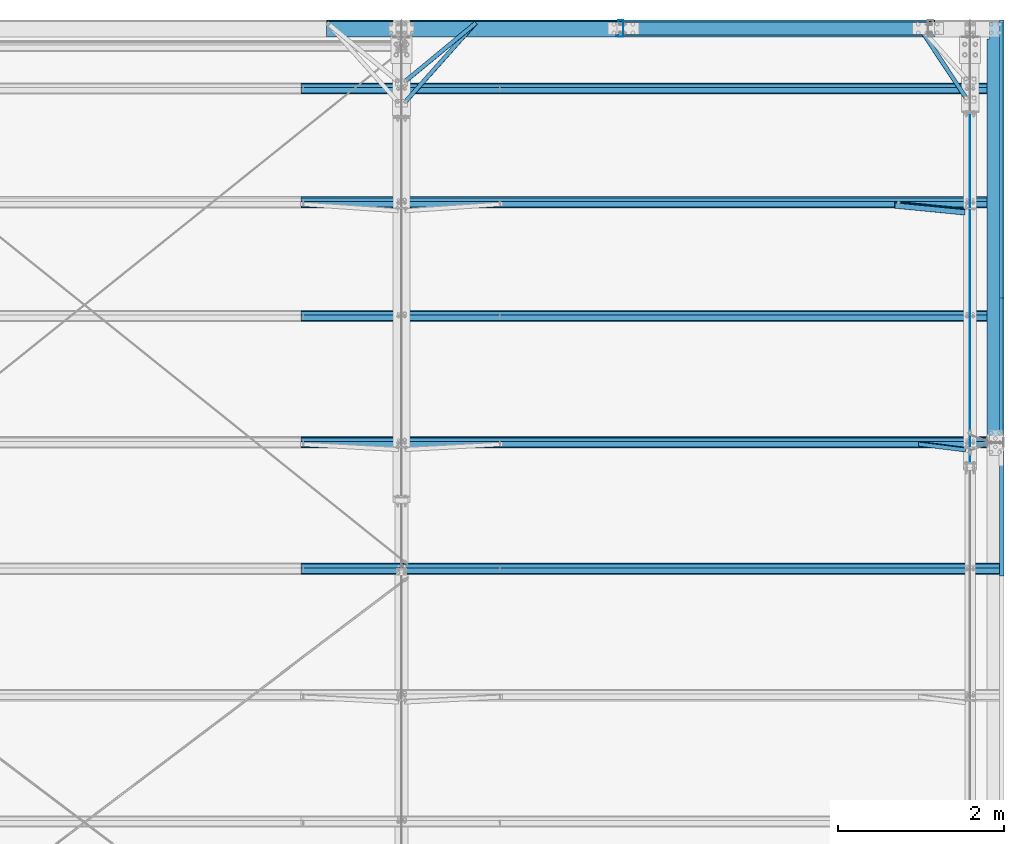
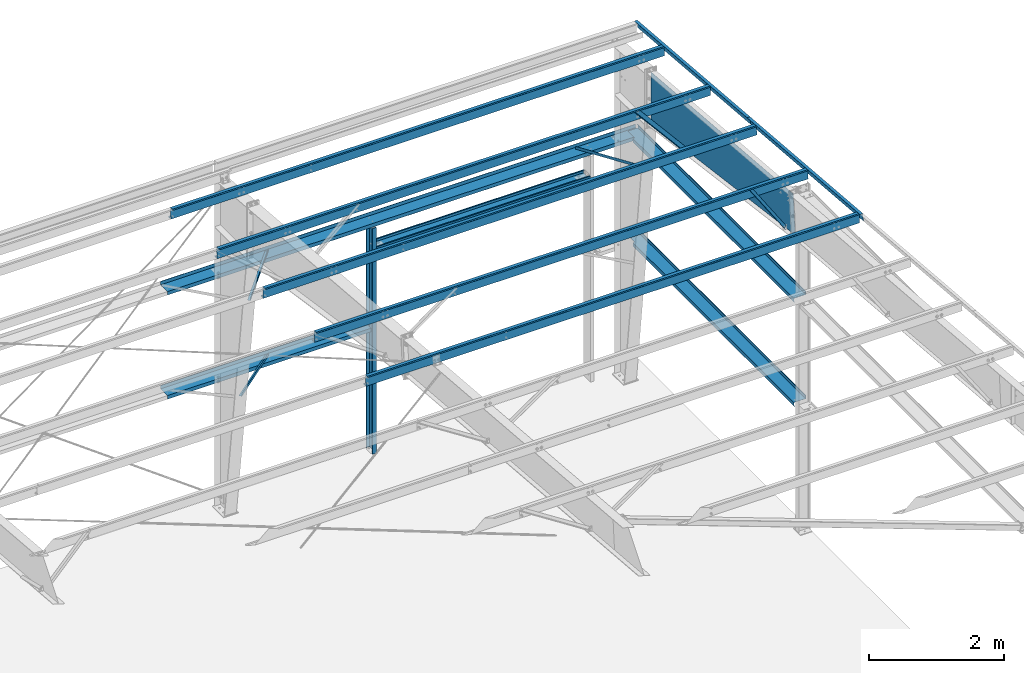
# One storey, part 21 of 185: 17 beams, 2 members, 2 openings, 19 elements without a shape of their own.
"""IFC2X3 building model written with IfcOpenShell, lengths in millimetres."""

from ifc_helpers import new_model, si_unit, frame, origin_with_axes, origin_2d_with_axis, place, context, subcontext, project, spatial, polyline, rectangle, l_section, outline, extrude, clip, halfspace, material, type_object, element, aggregate, save


model = new_model("IFC2X3")

# Units and contexts
model_context = context("Model", 3, precision=1e-05, world=origin_with_axes())
body_context = subcontext(model_context, "Body", "Model", "MODEL_VIEW")
ifc_project = project(units=[si_unit("LENGTHUNIT", "METRE", prefix="MILLI"), si_unit("AREAUNIT", "SQUARE_METRE"), si_unit("VOLUMEUNIT", "CUBIC_METRE"), si_unit("MASSUNIT", "GRAM", prefix="KILO"), si_unit("TIMEUNIT", "SECOND"), si_unit("PLANEANGLEUNIT", "RADIAN"), si_unit("SOLIDANGLEUNIT", "STERADIAN"), si_unit("THERMODYNAMICTEMPERATUREUNIT", "DEGREE_CELSIUS"), si_unit("LUMINOUSINTENSITYUNIT", "LUMEN")], contexts=[model_context])

# Site, building, storey
site_placement = place(None, origin_with_axes())
site = spatial("IfcSite", under=ifc_project, at=site_placement, Name="Undefined", CompositionType="ELEMENT")
building_placement = place(site_placement, origin_with_axes())
building = spatial("IfcBuilding", under=site, at=building_placement, Name="Undefined", CompositionType="ELEMENT")
storey_placement = place(building_placement, origin_with_axes())
storey = spatial("IfcBuildingStorey", under=building, at=storey_placement, Name="Undefined", CompositionType="ELEMENT", Elevation=0.0)

# Assembly, beam, opening
assembly_1_placement = place(storey_placement, origin_with_axes())
assembly_1 = element("IfcElementAssembly", 1, at=assembly_1_placement, inside=storey, Name="Steel Assembly", AssemblyPlace="NOTDEFINED", PredefinedType="RIGID_FRAME")
ifc_material = material(Name="STEEL/55")
beam_type_1 = type_object("IfcBeamType", Name="8Z15", PredefinedType="NOTDEFINED")
beam_1_placement = place(assembly_1_placement, frame((44856.4, 26923.99921875, 2286.0), z_axis=(-1.0, 0.0, 0.0), x_axis=(0.0, 1.0, 0.0)))
beam_1 = element("IfcBeam", 2, at=beam_1_placement, type_object=beam_type_1, material=ifc_material, Name="Girt", ObjectType="8Z15", context=body_context, shape_type="Clipping", body=[
    clip(extrude(outline(polyline([(-75.75, 87.0100021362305), (-63.5, 101.599998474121), (1.5900000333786, 101.599998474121), (1.5900000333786, -98.4199981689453), (62.0200004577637, -98.4199981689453), (73.3099975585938, -84.9700012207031), (75.7399978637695, -87.0100021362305), (63.5, -101.599998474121), (-1.5900000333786, -101.599998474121), (-1.5900000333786, 98.4199981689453), (-62.0200004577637, 98.4199981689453), (-73.3099975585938, 84.9700012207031), (-75.75, 87.0100021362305)])), frame((5054.60078125, 0.0, 0.0), z_axis=(-1.0, 0.0, 0.0), x_axis=(0.0, -1.0, 0.0)), (0.0, 0.0, 1.0), 5054.6), halfspace(frame((88.9007812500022, 74.5286799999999, -101.599999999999), z_axis=(-1.0, 0.0, 0.0), x_axis=(0.0, 0.0, 1.0)), False)),
])
opening_1_placement = place(assembly_1_placement, frame((44856.4, 26923.99921875, 2286.0), z_axis=(-1.0, 0.0, 0.0), x_axis=(0.0, 1.0, 0.0)))
element("IfcOpeningElement", 3, at=opening_1_placement, cuts=beam_1, ObjectType="Recess", context=body_context, shape_type="SweptSolid", body=[
    extrude(outline(polyline([(0.0, 0.0), (203.199996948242, 0.0), (203.199996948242, 254.0), (0.0, 254.0), (0.0, 0.0)])), frame((5105.40078125, 101.6, 149.225), z_axis=(0.0, 0.0, -1.0), x_axis=(0.0, -1.0, 0.0)), (0.0, 0.0, 1.0), 76.2),
])
aggregate(assembly_1, [beam_1])

assembly_2_placement = place(storey_placement, origin_with_axes())
assembly_2 = element("IfcElementAssembly", 4, at=assembly_2_placement, inside=storey, Name="Steel Assembly", AssemblyPlace="NOTDEFINED", PredefinedType="RIGID_FRAME")
beam_2_placement = place(assembly_2_placement, frame((44856.4, 26923.99921875, 4165.6), z_axis=(-1.0, 0.0, 0.0), x_axis=(0.0, 1.0, 0.0)))
beam_2 = element("IfcBeam", 5, at=beam_2_placement, type_object=beam_type_1, material=ifc_material, Name="Girt", ObjectType="8Z15", context=body_context, shape_type="Clipping", body=[
    clip(clip(extrude(outline(polyline([(-75.75, 87.0100021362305), (-63.5, 101.599998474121), (1.5900000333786, 101.599998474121), (1.5900000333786, -98.4199981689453), (62.0200004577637, -98.4199981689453), (73.3099975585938, -84.9700012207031), (75.7399978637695, -87.0100021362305), (63.5, -101.599998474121), (-1.5900000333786, -101.599998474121), (-1.5900000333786, 98.4199981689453), (-62.0200004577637, 98.4199981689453), (-73.3099975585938, 84.9700012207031), (-75.75, 87.0100021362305)])), frame((5054.60078125, 0.0, 0.0), z_axis=(-1.0, 0.0, 0.0), x_axis=(0.0, -1.0, 0.0)), (0.0, 0.0, 1.0), 5054.6), halfspace(frame((88.9007812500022, 74.5286799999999, -101.599999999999), z_axis=(-1.0, 0.0, 0.0), x_axis=(0.0, 0.0, 1.0)), False)), halfspace(frame((5054.60078125, 0.0, -101.599999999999), z_axis=(-1.0, 0.0, 0.0), x_axis=(0.0, -1.0, 0.0)), True)),
])
opening_2_placement = place(assembly_2_placement, frame((44856.4, 26923.99921875, 4165.6), z_axis=(-1.0, 0.0, 0.0), x_axis=(0.0, 1.0, 0.0)))
element("IfcOpeningElement", 6, at=opening_2_placement, cuts=beam_2, ObjectType="Recess", context=body_context, shape_type="SweptSolid", body=[
    extrude(outline(polyline([(0.0, 0.0), (203.199996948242, 0.0), (203.199996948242, 254.0), (0.0, 254.0), (0.0, 0.0)])), frame((5105.40078125, 101.6, 149.225), z_axis=(0.0, 0.0, -1.0), x_axis=(0.0, -1.0, 0.0)), (0.0, 0.0, 1.0), 76.2),
])
aggregate(assembly_2, [beam_2])

# Assembly, beam
assembly_3_placement = place(storey_placement, origin_with_axes())
assembly_3 = element("IfcElementAssembly", 7, at=assembly_3_placement, inside=storey, Name="Steel Assembly", AssemblyPlace="NOTDEFINED", PredefinedType="RIGID_FRAME")
beam_type_2 = type_object("IfcBeamType", Name="FB-", PredefinedType="NOTDEFINED")
beam_3_placement = place(assembly_3_placement, frame((37762.3896161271, 31233.6344970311, 2285.99999999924), z_axis=(-0.636105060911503, 0.77160245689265, 0.0), x_axis=(0.771602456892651, 0.636105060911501, 0.0)))
beam_3 = element("IfcBeam", 8, at=beam_3_placement, type_object=beam_type_2, material=ifc_material, Name="2X2 FLANGE BRACE X 48", ObjectType="FB-", context=body_context, shape_type="SweptSolid", body=[
    extrude(outline(polyline([(1.5900000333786, 1.59000003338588), (50.7999992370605, 1.59000003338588), (50.7999992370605, 7.27595761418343e-12), (0.0, 0.0), (0.0, 50.7999992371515), (1.5900000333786, 50.7999992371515), (1.5900000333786, 1.59000003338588)])), frame((1125.79495665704, 0.0, -1.24988348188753e-13), z_axis=(-1.0, 0.0, 0.0), x_axis=(0.0, -1.0, 0.0)), (0.0, 0.0, 1.0), 1125.8),
])
aggregate(assembly_3, [beam_3])

assembly_4_placement = place(storey_placement, origin_with_axes())
assembly_4 = element("IfcElementAssembly", 9, at=assembly_4_placement, inside=storey, Name="Steel Assembly", AssemblyPlace="NOTDEFINED", PredefinedType="RIGID_FRAME")
beam_4_placement = place(assembly_4_placement, frame((37767.9149298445, 30985.5315740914, 4165.60000000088), z_axis=(-0.746933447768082, 0.664898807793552, 0.0), x_axis=(0.664898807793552, 0.746933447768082, 0.0)))
beam_4 = element("IfcBeam", 10, at=beam_4_placement, type_object=beam_type_2, material=ifc_material, Name="2X2 FLANGE BRACE X 60", ObjectType="FB-", context=body_context, shape_type="SweptSolid", body=[
    extrude(outline(polyline([(1.5900000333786, 1.59000003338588), (50.7999992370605, 1.59000003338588), (50.7999992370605, 7.27595761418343e-12), (0.0, 0.0), (0.0, 50.7999992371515), (1.5900000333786, 50.7999992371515), (1.5900000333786, 1.59000003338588)])), frame((1298.31126038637, 0.0, 0.0), z_axis=(-1.0, 0.0, 0.0), x_axis=(0.0, -1.0, 0.0)), (0.0, 0.0, 1.0), 1298.3),
])
aggregate(assembly_4, [beam_4])

assembly_5_placement = place(storey_placement, origin_with_axes())
assembly_5 = element("IfcElementAssembly", 11, at=assembly_5_placement, inside=storey, Name="Steel Assembly", AssemblyPlace="NOTDEFINED", PredefinedType="RIGID_FRAME")
beam_5_placement = place(assembly_5_placement, frame((44497.6231989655, 31030.2450090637, 4167.18750000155), z_axis=(0.0, 0.0, 1.0), x_axis=(-0.552314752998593, 0.833635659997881, 0.0)))
beam_5 = element("IfcBeam", 12, at=beam_5_placement, type_object=beam_type_2, material=ifc_material, Name="2X2 FLANGE BRACE X 48", ObjectType="FB-", context=body_context, shape_type="SweptSolid", body=[
    extrude(outline(polyline([(1.5900000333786, 1.59000003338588), (50.7999992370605, 1.59000003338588), (50.7999992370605, 7.27595761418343e-12), (0.0, 0.0), (0.0, 50.7999992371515), (1.5900000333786, 50.7999992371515), (1.5900000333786, 1.59000003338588)])), frame((1115.71587763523, 0.0, 0.0), z_axis=(-1.0, 0.0, 0.0), x_axis=(0.0, -1.0, 0.0)), (0.0, 0.0, 1.0), 1115.7),
])
aggregate(assembly_5, [beam_5])

assembly_6_placement = place(storey_placement, origin_with_axes())
assembly_6 = element("IfcElementAssembly", 13, at=assembly_6_placement, inside=storey, Name="Steel Assembly", AssemblyPlace="NOTDEFINED", PredefinedType="RIGID_FRAME")
beam_type_3 = type_object("IfcBeamType", Name="8Z16", PredefinedType="NOTDEFINED")
beam_6_placement = place(assembly_6_placement, frame((40385.9999023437, 31902.4, 2286.0), z_axis=(0.0, -1.0, 0.0), x_axis=(-1.0, 0.0, 0.0)))
beam_6 = element("IfcBeam", 14, at=beam_6_placement, type_object=beam_type_3, material=ifc_material, Name="Girt", ObjectType="8Z16", context=body_context, shape_type="Clipping", body=[
    clip(clip(extrude(outline(polyline([(73.3099975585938, -84.9700012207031), (75.7399978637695, -87.0100021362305), (63.5, -101.599998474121), (-1.5900000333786, -101.599998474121), (-1.5900000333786, 98.4199981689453), (-62.0200004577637, 98.4199981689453), (-73.3099975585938, 84.9700012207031), (-75.75, 87.0100021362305), (-63.5, 101.599998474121), (1.5900000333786, 101.599998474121), (1.5900000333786, -98.4199981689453), (62.0200004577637, -98.4199981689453), (73.3099975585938, -84.9700012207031)])), frame((3568.69990234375, 0.0, 0.0), z_axis=(-1.0, 0.0, 0.0), x_axis=(0.0, -1.0, 0.0)), (0.0, 0.0, 1.0), 3479.8), halfspace(frame((3568.69990234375, 0.0, -101.599999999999), z_axis=(1.0, 0.0, 0.0), x_axis=(0.0, 1.0, 0.0)), False)), halfspace(frame((88.8999023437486, -1.5900000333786, 0.0), z_axis=(1.0, 0.0, 0.0), x_axis=(0.0, -1.0, 0.0)), True)),
])
aggregate(assembly_6, [beam_6])

assembly_7_placement = place(storey_placement, origin_with_axes())
assembly_7 = element("IfcElementAssembly", 15, at=assembly_7_placement, inside=storey, Name="Steel Assembly", AssemblyPlace="NOTDEFINED", PredefinedType="RIGID_FRAME")
beam_type_4 = type_object("IfcBeamType", Name="8C16", PredefinedType="NOTDEFINED")
beam_7_placement = place(assembly_7_placement, frame((40354.25, 31902.4, 4165.6), z_axis=(0.0, 1.0, 0.0), x_axis=(0.0, 0.0, -1.0)))
beam_7 = element("IfcBeam", 16, at=beam_7_placement, type_object=beam_type_4, material=ifc_material, Name="Jamb", ObjectType="8C16", context=body_context, shape_type="Clipping", body=[
    clip(extrude(outline(polyline([(-31.75, 79.370002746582), (-31.75, 101.599998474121), (31.75, 101.599998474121), (31.75, -101.599998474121), (-31.75, -101.599998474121), (-31.75, -79.379997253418), (-28.5699996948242, -79.379997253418), (-28.5699996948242, -98.4300003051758), (28.5699996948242, -98.4300003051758), (28.5699996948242, 98.4199981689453), (-28.5699996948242, 98.4199981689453), (-28.5699996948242, 79.370002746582), (-31.75, 79.370002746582)])), frame((4165.6, 0.0, 0.0), z_axis=(-1.0, 0.0, 0.0), x_axis=(0.0, -1.0, 0.0)), (0.0, 0.0, 1.0), 4076.7), halfspace(frame((88.9000000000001, -28.5699996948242, 0.0), z_axis=(1.0, 0.0, 0.0), x_axis=(0.0, 1.0, 0.0)), True)),
])
aggregate(assembly_7, [beam_7])

assembly_8_placement = place(storey_placement, origin_with_axes())
assembly_8 = element("IfcElementAssembly", 17, at=assembly_8_placement, inside=storey, Name="Steel Assembly", AssemblyPlace="NOTDEFINED", PredefinedType="RIGID_FRAME")
beam_8_placement = place(assembly_8_placement, frame((44043.6, 31902.4, 3689.35), z_axis=(0.0, 1.0, 0.0), x_axis=(-1.0, 0.0, 0.0)))
beam_8 = element("IfcBeam", 18, at=beam_8_placement, type_object=beam_type_4, material=ifc_material, Name="Header", ObjectType="8C16", context=body_context, shape_type="Clipping", body=[
    clip(clip(extrude(outline(polyline([(-31.75, 79.370002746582), (-31.75, 101.599998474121), (31.75, 101.599998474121), (31.75, -101.599998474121), (-31.75, -101.599998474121), (-31.75, -79.379997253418), (-28.5699996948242, -79.379997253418), (-28.5699996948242, -98.4300003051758), (28.5699996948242, -98.4300003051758), (28.5699996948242, 98.4199981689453), (-28.5699996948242, 98.4199981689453), (-28.5699996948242, 79.370002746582), (-31.75, 79.370002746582)])), frame((3657.6, 0.0, 0.0), z_axis=(-1.0, 0.0, 0.0), x_axis=(0.0, -1.0, 0.0)), (0.0, 0.0, 1.0), 3657.6), halfspace(frame((3657.6, -28.5699996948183, 0.0), z_axis=(-1.0, 0.0, 0.0), x_axis=(0.0, 1.0, 0.0)), True)), halfspace(frame((0.0, -28.5699996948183, 0.0), z_axis=(1.0, 0.0, 0.0), x_axis=(0.0, 1.0, 0.0)), True)),
])
aggregate(assembly_8, [beam_8])

# Assembly, member
assembly_9_placement = place(storey_placement, origin_with_axes())
assembly_9 = element("IfcElementAssembly", 19, at=assembly_9_placement, inside=storey, Name="Steel Assembly", AssemblyPlace="NOTDEFINED", PredefinedType="RIGID_FRAME")
member_type_1 = type_object("IfcMemberType", Name="FB-", PredefinedType="NOTDEFINED")
member_1_placement = place(assembly_9_placement, frame((44497.4182976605, 26861.5423714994, 5614.00459454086), z_axis=(0.0, -0.996545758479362, 0.0830454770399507), x_axis=(-0.547450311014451, 0.0694956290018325, 0.833947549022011)))
member_1 = element("IfcMember", 20, at=member_1_placement, type_object=member_type_1, material=ifc_material, Name="2X2 FLANGE BRACE X 48", ObjectType="FB-", context=body_context, shape_type="SweptSolid", body=[
    extrude(outline(polyline([(1.5900000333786, 1.59000003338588), (50.7999992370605, 1.59000003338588), (50.7999992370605, 7.27595761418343e-12), (0.0, 0.0), (0.0, 50.7999992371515), (1.5900000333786, 50.7999992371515), (1.5900000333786, 1.59000003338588)])), frame((1032.38451710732, 0.0, 1.43272132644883e-14), z_axis=(-1.0, 0.0, 0.0), x_axis=(0.0, -1.0, 0.0)), (0.0, 0.0, 1.0), 1032.4),
])
aggregate(assembly_9, [member_1])

# Assembly, beam
assembly_10_placement = place(storey_placement, origin_with_axes())
assembly_10 = element("IfcElementAssembly", 21, at=assembly_10_placement, inside=storey, Name="Steel Assembly", AssemblyPlace="NOTDEFINED", PredefinedType="RIGID_FRAME")
beam_type_5 = type_object("IfcBeamType", Name="RA-1", PredefinedType="NOTDEFINED")
beam_9_placement = place(assembly_10_placement, frame((44958.0, 25321.5435704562, 6652.63942907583), z_axis=(0.0, -0.0830701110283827, -0.996543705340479), x_axis=(0.0, 0.99654370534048, -0.0830701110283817)))
beam_9 = element("IfcBeam", 22, at=beam_9_placement, type_object=beam_type_5, material=ifc_material, Name="STANDARD RAKE ANGLE", ObjectType="RA-1", context=body_context, shape_type="SweptSolid", body=[
    extrude(outline(polyline([(0.0, 0.0), (50.7999992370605, 7.27595761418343e-12), (50.7999992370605, -1.51999998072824), (-1.51999998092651, -1.51999998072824), (-1.51999998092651, 127.000000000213), (0.0, 127.000000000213), (0.0, 0.0)])), frame((3352.80000002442, 0.0, -1.86551885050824e-12), z_axis=(-1.0, 0.0, 0.0), x_axis=(0.0, -1.0, 0.0)), (0.0, 0.0, 1.0), 3352.8),
])
aggregate(assembly_10, [beam_9])

assembly_11_placement = place(storey_placement, origin_with_axes())
assembly_11 = element("IfcElementAssembly", 23, at=assembly_11_placement, inside=storey, Name="Steel Assembly", AssemblyPlace="NOTDEFINED", PredefinedType="RIGID_FRAME")
beam_10_placement = place(assembly_11_placement, frame((44958.0, 28662.7553058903, 6374.12196248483), z_axis=(0.0, -0.0830701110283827, -0.996543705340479), x_axis=(0.0, 0.99654370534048, -0.0830701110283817)))
beam_10 = element("IfcBeam", 24, at=beam_10_placement, type_object=beam_type_5, material=ifc_material, Name="STANDARD RAKE ANGLE", ObjectType="RA-1", context=body_context, shape_type="SweptSolid", body=[
    extrude(outline(polyline([(0.0, 0.0), (50.7999992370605, 7.27595761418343e-12), (50.7999992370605, -1.51999998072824), (-1.51999998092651, -1.51999998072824), (-1.51999998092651, 127.000000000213), (0.0, 127.000000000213), (0.0, 0.0)])), frame((3352.80000002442, 0.0, -1.86551885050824e-12), z_axis=(-1.0, 0.0, 0.0), x_axis=(0.0, -1.0, 0.0)), (0.0, 0.0, 1.0), 3352.8),
])
aggregate(assembly_11, [beam_10])

# Assembly, member
assembly_12_placement = place(storey_placement, origin_with_axes())
assembly_12 = element("IfcElementAssembly", 25, at=assembly_12_placement, inside=storey, Name="Steel Assembly", AssemblyPlace="NOTDEFINED", PredefinedType="RIGID_FRAME")
member_type_2 = type_object("IfcMemberType", Name="L3X3X1/4", PredefinedType="NOTDEFINED")
member_2_placement = place(assembly_12_placement, frame((44516.3602372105, 29698.8098092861, 5252.42447418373), z_axis=(0.000671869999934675, -0.996498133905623, 0.0836123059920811), x_axis=(-0.646152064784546, 0.0633810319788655, 0.760572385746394)))
member_2 = element("IfcMember", 26, at=member_2_placement, type_object=member_type_2, material=ifc_material, Name="MISC STRUCTURAL ANGLE", ObjectType="L3X3X1/4", context=body_context, shape_type="SweptSolid", body=[
    extrude(l_section(Depth=76.2, Width=76.2, Thickness=6.35, FilletRadius=9.525, at=origin_2d_with_axis()), frame((1305.80450091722, 7.27595761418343e-12, -3.61985712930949e-12), z_axis=(-1.0, 0.0, 0.0), x_axis=(0.0, -1.0, 0.0)), (0.0, 0.0, 1.0), 1305.8),
])
aggregate(assembly_12, [member_2])

# Assembly, beam
assembly_13_placement = place(storey_placement, origin_with_axes())
assembly_13 = element("IfcElementAssembly", 27, at=assembly_13_placement, inside=storey, Name="Steel Assembly", AssemblyPlace="NOTDEFINED", PredefinedType="RIGID_FRAME")
beam_type_6 = type_object("IfcBeamType", Name="8Z12", PredefinedType="NOTDEFINED")
beam_11_placement = place(assembly_13_placement, frame((44958.0, 31902.4, 4165.6), z_axis=(0.0, -1.0, 0.0), x_axis=(-1.0, 0.0, 0.0)))
beam_11 = element("IfcBeam", 28, at=beam_11_placement, type_object=beam_type_6, material=ifc_material, Name="Girt", ObjectType="8Z12", context=body_context, shape_type="Clipping", body=[
    clip(clip(extrude(outline(polyline([(-62.0200004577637, 98.4199981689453), (-73.3099975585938, 84.9700012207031), (-75.75, 87.0100021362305), (-63.5, 101.599998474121), (1.5900000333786, 101.599998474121), (1.5900000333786, -98.4199981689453), (62.0200004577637, -98.4199981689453), (73.3099975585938, -84.9700012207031), (75.7399978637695, -87.0100021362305), (63.5, -101.599998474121), (-1.5900000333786, -101.599998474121), (-1.5900000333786, 98.4199981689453), (-62.0200004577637, 98.4199981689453)])), frame((8140.7, 0.0, 0.0), z_axis=(-1.0, 0.0, 0.0), x_axis=(0.0, -1.0, 0.0)), (0.0, 0.0, 1.0), 8115.3), halfspace(frame((8140.7, 0.0, -101.599999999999), z_axis=(1.0, 0.0, 0.0), x_axis=(0.0, 1.0, 0.0)), False)), halfspace(frame((25.4000000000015, 0.0, -101.6), z_axis=(-1.0, 0.0, 0.0), x_axis=(0.0, 0.0, 1.0)), False)),
])
aggregate(assembly_13, [beam_11])

assembly_14_placement = place(storey_placement, origin_with_axes())
assembly_14 = element("IfcElementAssembly", 29, at=assembly_14_placement, inside=storey, Name="Steel Assembly", AssemblyPlace="NOTDEFINED", PredefinedType="RIGID_FRAME")
beam_type_7 = type_object("IfcBeamType", Name="8Z13", PredefinedType="NOTDEFINED")
beam_12_placement = place(assembly_14_placement, frame((44958.0, 31180.9195102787, 6062.63787351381), z_axis=(0.0, -0.0830454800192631, -0.996545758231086), x_axis=(-1.0, 0.0, 0.0)))
beam_12 = element("IfcBeam", 30, at=beam_12_placement, type_object=beam_type_7, material=ifc_material, Name="Purlin", ObjectType="8Z13", context=body_context, shape_type="Clipping", body=[
    clip(clip(extrude(outline(polyline([(-62.0200004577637, 98.4199981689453), (-73.3099975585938, 84.9700012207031), (-75.75, 87.0100021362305), (-63.5, 101.599998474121), (1.5900000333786, 101.599998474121), (1.5900000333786, -98.4199981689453), (62.0200004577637, -98.4199981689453), (73.3099975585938, -84.9700012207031), (75.7399978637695, -87.0100021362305), (63.5, -101.599998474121), (-1.5900000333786, -101.599998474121), (-1.5900000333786, 98.4199981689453), (-62.0200004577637, 98.4199981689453)])), frame((8445.5, 0.0, 0.0), z_axis=(-1.0, 0.0, 0.0), x_axis=(0.0, -1.0, 0.0)), (0.0, 0.0, 1.0), 8432.8), halfspace(frame((8445.5, 2.91402102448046e-09, -101.600000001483), z_axis=(-1.0, 0.0, 0.0), x_axis=(0.0, 0.0, 1.0)), True)), halfspace(frame((12.7000000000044, 2.91402102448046e-09, -101.600000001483), z_axis=(-1.0, 0.0, 0.0), x_axis=(0.0, 0.0, 1.0)), False)),
])
aggregate(assembly_14, [beam_12])

assembly_15_placement = place(storey_placement, origin_with_axes())
assembly_15 = element("IfcElementAssembly", 31, at=assembly_15_placement, inside=storey, Name="Steel Assembly", AssemblyPlace="NOTDEFINED", PredefinedType="RIGID_FRAME")
beam_13_placement = place(assembly_15_placement, frame((44958.0, 29814.0573482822, 6176.54305391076), z_axis=(0.0, -0.0830454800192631, -0.996545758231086), x_axis=(-1.0, 0.0, 0.0)))
beam_13 = element("IfcBeam", 32, at=beam_13_placement, type_object=beam_type_7, material=ifc_material, Name="Purlin", ObjectType="8Z13", context=body_context, shape_type="Clipping", body=[
    clip(clip(extrude(outline(polyline([(-62.0200004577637, 98.4199981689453), (-73.3099975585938, 84.9700012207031), (-75.75, 87.0100021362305), (-63.5, 101.599998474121), (1.5900000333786, 101.599998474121), (1.5900000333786, -98.4199981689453), (62.0200004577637, -98.4199981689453), (73.3099975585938, -84.9700012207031), (75.7399978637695, -87.0100021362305), (63.5, -101.599998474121), (-1.5900000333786, -101.599998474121), (-1.5900000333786, 98.4199981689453), (-62.0200004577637, 98.4199981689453)])), frame((8445.5, 0.0, 0.0), z_axis=(-1.0, 0.0, 0.0), x_axis=(0.0, -1.0, 0.0)), (0.0, 0.0, 1.0), 8432.8), halfspace(frame((8445.5, 2.91402102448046e-09, -101.600000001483), z_axis=(-1.0, 0.0, 0.0), x_axis=(0.0, 0.0, 1.0)), True)), halfspace(frame((12.7000000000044, 2.91402102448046e-09, -101.600000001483), z_axis=(-1.0, 0.0, 0.0), x_axis=(0.0, 0.0, 1.0)), False)),
])
aggregate(assembly_15, [beam_13])

assembly_16_placement = place(storey_placement, origin_with_axes())
assembly_16 = element("IfcElementAssembly", 33, at=assembly_16_placement, inside=storey, Name="Steel Assembly", AssemblyPlace="NOTDEFINED", PredefinedType="RIGID_FRAME")
beam_14_placement = place(assembly_16_placement, frame((44958.0, 28447.1951862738, 6290.4482343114), z_axis=(0.0, -0.0830454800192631, -0.996545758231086), x_axis=(-1.0, 0.0, 0.0)))
beam_14 = element("IfcBeam", 34, at=beam_14_placement, type_object=beam_type_7, material=ifc_material, Name="Purlin", ObjectType="8Z13", context=body_context, shape_type="Clipping", body=[
    clip(clip(extrude(outline(polyline([(-62.0200004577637, 98.4199981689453), (-73.3099975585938, 84.9700012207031), (-75.75, 87.0100021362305), (-63.5, 101.599998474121), (1.5900000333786, 101.599998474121), (1.5900000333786, -98.4199981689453), (62.0200004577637, -98.4199981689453), (73.3099975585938, -84.9700012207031), (75.7399978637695, -87.0100021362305), (63.5, -101.599998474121), (-1.5900000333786, -101.599998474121), (-1.5900000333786, 98.4199981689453), (-62.0200004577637, 98.4199981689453)])), frame((8445.5, 0.0, 0.0), z_axis=(-1.0, 0.0, 0.0), x_axis=(0.0, -1.0, 0.0)), (0.0, 0.0, 1.0), 8432.8), halfspace(frame((8445.5, 2.91402102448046e-09, -101.600000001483), z_axis=(-1.0, 0.0, 0.0), x_axis=(0.0, 0.0, 1.0)), True)), halfspace(frame((12.7000000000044, 2.91402102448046e-09, -101.600000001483), z_axis=(-1.0, 0.0, 0.0), x_axis=(0.0, 0.0, 1.0)), False)),
])
aggregate(assembly_16, [beam_14])

assembly_17_placement = place(storey_placement, origin_with_axes())
assembly_17 = element("IfcElementAssembly", 35, at=assembly_17_placement, inside=storey, Name="Steel Assembly", AssemblyPlace="NOTDEFINED", PredefinedType="RIGID_FRAME")
beam_15_placement = place(assembly_17_placement, frame((44958.0, 26928.4594507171, 6417.00954586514), z_axis=(0.0, -0.0830454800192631, -0.996545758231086), x_axis=(-1.0, 0.0, 0.0)))
beam_15 = element("IfcBeam", 36, at=beam_15_placement, type_object=beam_type_7, material=ifc_material, Name="Purlin", ObjectType="8Z13", context=body_context, shape_type="Clipping", body=[
    clip(clip(extrude(outline(polyline([(-62.0200004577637, 98.4199981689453), (-73.3099975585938, 84.9700012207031), (-75.75, 87.0100021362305), (-63.5, 101.599998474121), (1.5900000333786, 101.599998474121), (1.5900000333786, -98.4199981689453), (62.0200004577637, -98.4199981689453), (73.3099975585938, -84.9700012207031), (75.7399978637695, -87.0100021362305), (63.5, -101.599998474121), (-1.5900000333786, -101.599998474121), (-1.5900000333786, 98.4199981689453), (-62.0200004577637, 98.4199981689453)])), frame((8445.5, 0.0, 0.0), z_axis=(-1.0, 0.0, 0.0), x_axis=(0.0, -1.0, 0.0)), (0.0, 0.0, 1.0), 8432.8), halfspace(frame((8445.5, 2.91402102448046e-09, -101.600000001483), z_axis=(-1.0, 0.0, 0.0), x_axis=(0.0, 0.0, 1.0)), True)), halfspace(frame((12.7000000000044, 2.91402102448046e-09, -101.600000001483), z_axis=(-1.0, 0.0, 0.0), x_axis=(0.0, 0.0, 1.0)), False)),
])
aggregate(assembly_17, [beam_15])

assembly_18_placement = place(storey_placement, origin_with_axes())
assembly_18 = element("IfcElementAssembly", 37, at=assembly_18_placement, inside=storey, Name="Steel Assembly", AssemblyPlace="NOTDEFINED", PredefinedType="RIGID_FRAME")
beam_16_placement = place(assembly_18_placement, frame((44958.0, 25409.7237151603, 6543.57085741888), z_axis=(0.0, -0.0830454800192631, -0.996545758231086), x_axis=(-1.0, 0.0, 0.0)))
beam_16 = element("IfcBeam", 38, at=beam_16_placement, type_object=beam_type_7, material=ifc_material, Name="Purlin", ObjectType="8Z13", context=body_context, shape_type="Clipping", body=[
    clip(clip(extrude(outline(polyline([(-62.0200004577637, 98.4199981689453), (-73.3099975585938, 84.9700012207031), (-75.75, 87.0100021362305), (-63.5, 101.599998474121), (1.5900000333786, 101.599998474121), (1.5900000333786, -98.4199981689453), (62.0200004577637, -98.4199981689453), (73.3099975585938, -84.9700012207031), (75.7399978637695, -87.0100021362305), (63.5, -101.599998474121), (-1.5900000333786, -101.599998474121), (-1.5900000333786, 98.4199981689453), (-62.0200004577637, 98.4199981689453)])), frame((8445.5, 0.0, 0.0), z_axis=(-1.0, 0.0, 0.0), x_axis=(0.0, -1.0, 0.0)), (0.0, 0.0, 1.0), 8432.8), halfspace(frame((8445.5, 2.91402102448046e-09, -101.600000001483), z_axis=(-1.0, 0.0, 0.0), x_axis=(0.0, 0.0, 1.0)), True)), halfspace(frame((12.7000000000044, 2.91402102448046e-09, -101.600000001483), z_axis=(-1.0, 0.0, 0.0), x_axis=(0.0, 0.0, 1.0)), False)),
])
aggregate(assembly_18, [beam_16])

assembly_19_placement = place(storey_placement, origin_with_axes())
assembly_19 = element("IfcElementAssembly", 39, at=assembly_19_placement, inside=storey, Name="Steel Assembly", AssemblyPlace="NOTDEFINED", PredefinedType="RIGID_FRAME")
beam_type_8 = type_object("IfcBeamType", Name="PL3/16\"X36\"", PredefinedType="NOTDEFINED")
beam_17_placement = place(assembly_19_placement, frame((44551.6, 30917.9933677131, 5517.74184500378), z_axis=(0.0, 0.0830454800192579, 0.996545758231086), x_axis=(0.0, -0.996545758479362, 0.0830454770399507)))
beam_17 = element("IfcBeam", 40, at=beam_17_placement, type_object=beam_type_8, material=ifc_material, Name="Web", ObjectType="PL3/16\"X36\"", context=body_context, shape_type="Clipping", body=[
    clip(clip(clip(extrude(rectangle(XDim=4.7625, YDim=913.797301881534, at=origin_2d_with_axis()), frame((4291.14071325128, 0.0, 0.0), z_axis=(-1.0, 0.0, 0.0), x_axis=(0.0, -1.0, 0.0)), (0.0, 0.0, 1.0), 4351.0), halfspace(frame((-6.25732354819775e-10, 2.38124999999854, -456.898650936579), z_axis=(0.0470547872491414, 0.0, -0.998892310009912), x_axis=(0.0, -1.0, 0.0)), False)), halfspace(frame((4291.14071326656, 0.0, 456.898650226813), z_axis=(-1.0, 0.0, 0.0), x_axis=(0.0, -1.0, 0.0)), True)), halfspace(frame((76.0618854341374, 0.0, 455.843973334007), z_axis=(-0.996545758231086, 0.0, 0.0830454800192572), x_axis=(0.0, -1.0, 0.0)), False)),
])
aggregate(assembly_19, [beam_17])

save(model, "model.ifc")
